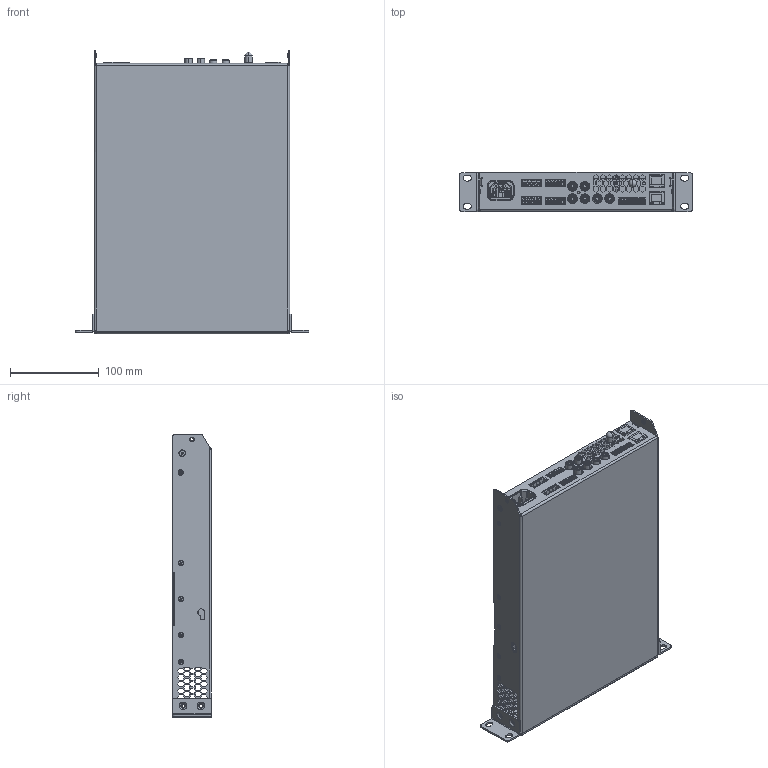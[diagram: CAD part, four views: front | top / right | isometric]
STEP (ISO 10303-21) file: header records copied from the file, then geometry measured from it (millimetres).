
FILE_DESCRIPTION (( 'STEP AP214' ), '1' );
FILE_NAME ('Sonance PowerZone Connect PRO 300.2.STEP', '2026-06-01T17:20:26', ( '' ), ( '' ), 'SwSTEP 2.0', 'SolidWorks 2025', '' );
FILE_SCHEMA (( 'AUTOMOTIVE_DESIGN' ));
Length unit declared in the file: millimetre
Products named in the file (3): Sonance PowerZone Connect PRO 300.2D; Sonance PowerZone Connect PRO 300.2; Network Connector
Assembly tree (2 placements, depth 2):
  Sonance PowerZone Connect PRO 300.2
    Sonance PowerZone Connect PRO 300.2D
    Network Connector
Bounding box: 263.3 x 43.9 x 320 mm (x, y, z)
Volume: 322824.4 mm3; surface area: 434558.4 mm2
Topology: 118 solids, 118 shells, 6246 faces, 15606 edges, 9835 vertices
Faces by surface type: plane 3839, cylinder 1394, cone 586, torus 300, bspline 83, sphere 44
Entity records: 189694 total; most frequent: CARTESIAN_POINT 37798, DIRECTION 31182, ORIENTED_EDGE 31080, EDGE_CURVE 15540, LINE 10630, VECTOR 10630, AXIS2_PLACEMENT_3D 10276, VERTEX_POINT 9831
